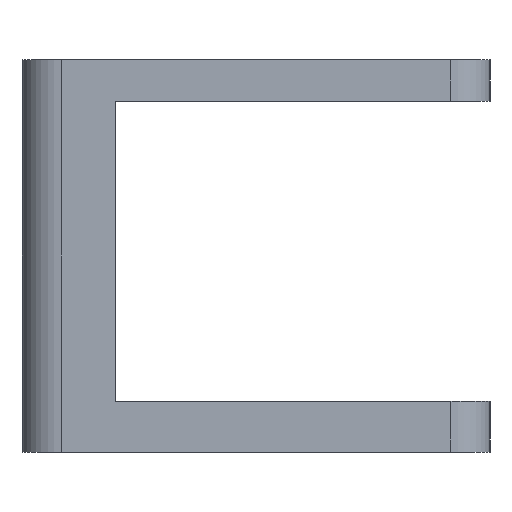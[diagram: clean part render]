
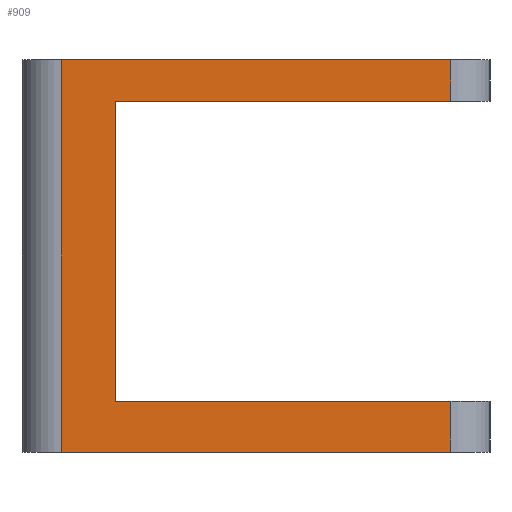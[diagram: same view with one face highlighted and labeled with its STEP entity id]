
A CAD part, left-side view. The second image highlights one B-rep face of the part: STEP entity #909.
In plain terms, the highlighted planar face has unit normal (-1, 0, 0).
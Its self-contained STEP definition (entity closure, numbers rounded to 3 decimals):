
#24=LINE('',#1463,#64);
#28=LINE('',#1479,#68);
#33=LINE('',#1493,#73);
#36=LINE('',#1499,#76);
#52=LINE('',#1545,#92);
#53=LINE('',#1548,#93);
#54=LINE('',#1549,#94);
#55=LINE('',#1550,#95);
#64=VECTOR('',#1215,5.3);
#68=VECTOR('',#1231,50.);
#73=VECTOR('',#1242,43.);
#76=VECTOR('',#1247,38.5);
#92=VECTOR('',#1295,6.5);
#93=VECTOR('',#1298,50.);
#94=VECTOR('',#1299,43.);
#95=VECTOR('',#1300,50.3);
#116=PLANE('',#1029);
#237=FACE_OUTER_BOUND('',#349,.T.);
#349=EDGE_LOOP('',(#785,#786,#787,#788,#789,#790,#791,#792));
#484=VERTEX_POINT('',#1459);
#485=VERTEX_POINT('',#1461);
#491=VERTEX_POINT('',#1477);
#496=VERTEX_POINT('',#1489);
#499=VERTEX_POINT('',#1496);
#512=VERTEX_POINT('',#1541);
#513=VERTEX_POINT('',#1543);
#514=VERTEX_POINT('',#1547);
#572=EDGE_CURVE('',#484,#485,#24,.T.);
#580=EDGE_CURVE('',#491,#485,#28,.T.);
#587=EDGE_CURVE('',#496,#484,#33,.T.);
#590=EDGE_CURVE('',#499,#496,#36,.T.);
#613=EDGE_CURVE('',#512,#513,#52,.T.);
#614=EDGE_CURVE('',#514,#512,#53,.T.);
#615=EDGE_CURVE('',#499,#513,#54,.T.);
#616=EDGE_CURVE('',#514,#491,#55,.T.);
#785=ORIENTED_EDGE('',*,*,#614,.T.);
#786=ORIENTED_EDGE('',*,*,#613,.T.);
#787=ORIENTED_EDGE('',*,*,#615,.F.);
#788=ORIENTED_EDGE('',*,*,#590,.T.);
#789=ORIENTED_EDGE('',*,*,#587,.T.);
#790=ORIENTED_EDGE('',*,*,#572,.T.);
#791=ORIENTED_EDGE('',*,*,#580,.F.);
#792=ORIENTED_EDGE('',*,*,#616,.F.);
#909=ADVANCED_FACE('',(#237),#116,.T.);
#1029=AXIS2_PLACEMENT_3D('',#1546,#1296,#1297);
#1215=DIRECTION('',(0.,0.,1.));
#1231=DIRECTION('',(0.,-1.,0.));
#1242=DIRECTION('',(0.,-1.,0.));
#1247=DIRECTION('',(0.,0.,1.));
#1295=DIRECTION('',(0.,0.,1.));
#1296=DIRECTION('center_axis',(-1.,0.,0.));
#1297=DIRECTION('ref_axis',(0.,-1.,0.));
#1298=DIRECTION('',(0.,-1.,0.));
#1299=DIRECTION('',(0.,-1.,0.));
#1300=DIRECTION('',(0.,0.,1.));
#1459=CARTESIAN_POINT('',(-100.721,-25.,45.));
#1461=CARTESIAN_POINT('',(-100.721,-25.,50.3));
#1463=CARTESIAN_POINT('',(-100.721,-25.,45.));
#1477=CARTESIAN_POINT('',(-100.721,25.,50.3));
#1479=CARTESIAN_POINT('',(-100.721,25.,50.3));
#1489=CARTESIAN_POINT('',(-100.721,18.,45.));
#1493=CARTESIAN_POINT('',(-100.721,25.,45.));
#1496=CARTESIAN_POINT('',(-100.721,18.,6.5));
#1499=CARTESIAN_POINT('',(-100.721,18.,6.5));
#1541=CARTESIAN_POINT('',(-100.721,-25.,0.));
#1543=CARTESIAN_POINT('',(-100.721,-25.,6.5));
#1545=CARTESIAN_POINT('',(-100.721,-25.,0.));
#1546=CARTESIAN_POINT('Origin',(-100.721,25.,0.));
#1547=CARTESIAN_POINT('',(-100.721,25.,0.));
#1548=CARTESIAN_POINT('',(-100.721,25.,0.));
#1549=CARTESIAN_POINT('',(-100.721,25.,6.5));
#1550=CARTESIAN_POINT('',(-100.721,25.,0.));
